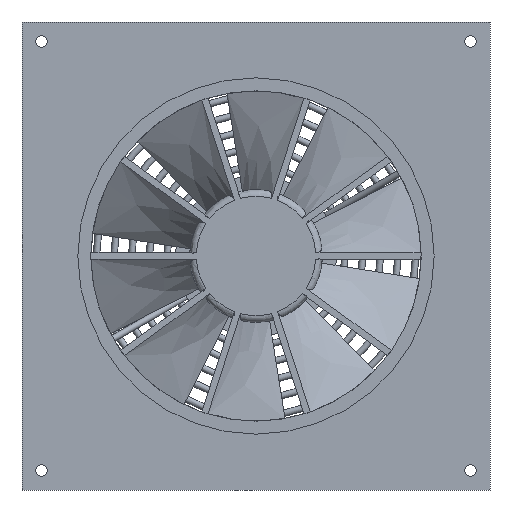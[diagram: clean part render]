
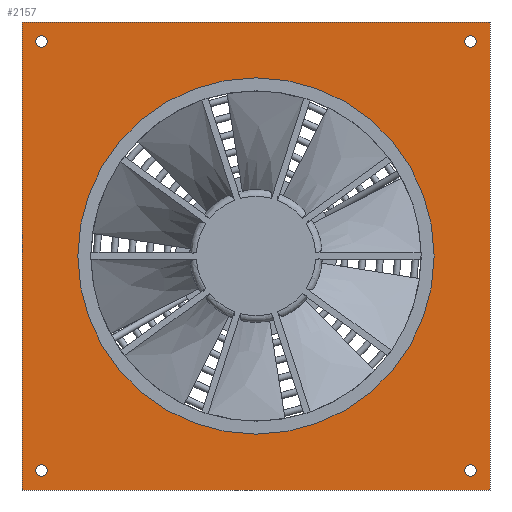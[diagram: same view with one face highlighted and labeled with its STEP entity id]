
A CAD part, front view. The second image highlights one B-rep face of the part: STEP entity #2157.
In plain terms, the highlighted planar face has unit normal (0, -1, 0).
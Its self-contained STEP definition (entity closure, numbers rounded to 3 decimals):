
#96=FACE_BOUND('',#346,.T.);
#97=FACE_BOUND('',#347,.T.);
#98=FACE_BOUND('',#348,.T.);
#99=FACE_BOUND('',#349,.T.);
#100=FACE_BOUND('',#350,.T.);
#128=PLANE('',#2356);
#228=FACE_OUTER_BOUND('',#345,.T.);
#345=EDGE_LOOP('',(#2008,#2009,#2010,#2011));
#346=EDGE_LOOP('',(#2012,#2013));
#347=EDGE_LOOP('',(#2014,#2015));
#348=EDGE_LOOP('',(#2016,#2017));
#349=EDGE_LOOP('',(#2018,#2019));
#350=EDGE_LOOP('',(#2020));
#579=CIRCLE('',#2339,4.5);
#580=CIRCLE('',#2340,4.5);
#581=CIRCLE('',#2342,4.5);
#582=CIRCLE('',#2343,4.5);
#583=CIRCLE('',#2345,4.5);
#584=CIRCLE('',#2346,4.5);
#585=CIRCLE('',#2348,4.5);
#586=CIRCLE('',#2349,4.5);
#588=CIRCLE('',#2352,137.);
#651=LINE('',#4561,#742);
#653=LINE('',#4568,#744);
#655=LINE('',#4574,#746);
#656=LINE('',#4576,#747);
#742=VECTOR('',#2676,10.);
#744=VECTOR('',#2684,10.);
#746=VECTOR('',#2690,10.);
#747=VECTOR('',#2693,10.);
#972=VERTEX_POINT('',#4558);
#973=VERTEX_POINT('',#4560);
#975=VERTEX_POINT('',#4566);
#977=VERTEX_POINT('',#4572);
#982=VERTEX_POINT('',#5372);
#983=VERTEX_POINT('',#5373);
#984=VERTEX_POINT('',#5378);
#985=VERTEX_POINT('',#5379);
#986=VERTEX_POINT('',#5384);
#987=VERTEX_POINT('',#5385);
#988=VERTEX_POINT('',#5390);
#989=VERTEX_POINT('',#5391);
#991=VERTEX_POINT('',#5398);
#1253=EDGE_CURVE('',#973,#972,#651,.T.);
#1257=EDGE_CURVE('',#972,#975,#653,.T.);
#1260=EDGE_CURVE('',#975,#977,#655,.T.);
#1261=EDGE_CURVE('',#977,#973,#656,.T.);
#1319=EDGE_CURVE('',#982,#983,#579,.T.);
#1320=EDGE_CURVE('',#983,#982,#580,.T.);
#1322=EDGE_CURVE('',#984,#985,#581,.T.);
#1323=EDGE_CURVE('',#985,#984,#582,.T.);
#1325=EDGE_CURVE('',#986,#987,#583,.T.);
#1326=EDGE_CURVE('',#987,#986,#584,.T.);
#1328=EDGE_CURVE('',#988,#989,#585,.T.);
#1329=EDGE_CURVE('',#989,#988,#586,.T.);
#1333=EDGE_CURVE('',#991,#991,#588,.T.);
#2008=ORIENTED_EDGE('',*,*,#1253,.T.);
#2009=ORIENTED_EDGE('',*,*,#1257,.T.);
#2010=ORIENTED_EDGE('',*,*,#1260,.T.);
#2011=ORIENTED_EDGE('',*,*,#1261,.T.);
#2012=ORIENTED_EDGE('',*,*,#1319,.T.);
#2013=ORIENTED_EDGE('',*,*,#1320,.T.);
#2014=ORIENTED_EDGE('',*,*,#1322,.T.);
#2015=ORIENTED_EDGE('',*,*,#1323,.T.);
#2016=ORIENTED_EDGE('',*,*,#1325,.T.);
#2017=ORIENTED_EDGE('',*,*,#1326,.T.);
#2018=ORIENTED_EDGE('',*,*,#1328,.T.);
#2019=ORIENTED_EDGE('',*,*,#1329,.T.);
#2020=ORIENTED_EDGE('',*,*,#1333,.T.);
#2157=ADVANCED_FACE('',(#228,#96,#97,#98,#99,#100),#128,.F.);
#2339=AXIS2_PLACEMENT_3D('',#5374,#2761,#2762);
#2340=AXIS2_PLACEMENT_3D('',#5375,#2763,#2764);
#2342=AXIS2_PLACEMENT_3D('',#5380,#2768,#2769);
#2343=AXIS2_PLACEMENT_3D('',#5381,#2770,#2771);
#2345=AXIS2_PLACEMENT_3D('',#5386,#2775,#2776);
#2346=AXIS2_PLACEMENT_3D('',#5387,#2777,#2778);
#2348=AXIS2_PLACEMENT_3D('',#5392,#2782,#2783);
#2349=AXIS2_PLACEMENT_3D('',#5393,#2784,#2785);
#2352=AXIS2_PLACEMENT_3D('',#5400,#2792,#2793);
#2356=AXIS2_PLACEMENT_3D('',#5404,#2800,#2801);
#2676=DIRECTION('',(1.,0.,0.));
#2684=DIRECTION('',(0.,0.,1.));
#2690=DIRECTION('',(-1.,0.,0.));
#2693=DIRECTION('',(0.,0.,-1.));
#2761=DIRECTION('center_axis',(0.,1.,0.));
#2762=DIRECTION('ref_axis',(1.,0.,0.));
#2763=DIRECTION('center_axis',(0.,1.,0.));
#2764=DIRECTION('ref_axis',(1.,0.,0.));
#2768=DIRECTION('center_axis',(0.,1.,0.));
#2769=DIRECTION('ref_axis',(1.,0.,0.));
#2770=DIRECTION('center_axis',(0.,1.,0.));
#2771=DIRECTION('ref_axis',(1.,0.,0.));
#2775=DIRECTION('center_axis',(0.,1.,0.));
#2776=DIRECTION('ref_axis',(1.,0.,0.));
#2777=DIRECTION('center_axis',(0.,1.,0.));
#2778=DIRECTION('ref_axis',(1.,0.,0.));
#2782=DIRECTION('center_axis',(0.,1.,0.));
#2783=DIRECTION('ref_axis',(1.,0.,0.));
#2784=DIRECTION('center_axis',(0.,1.,0.));
#2785=DIRECTION('ref_axis',(1.,0.,0.));
#2792=DIRECTION('center_axis',(0.,1.,0.));
#2793=DIRECTION('ref_axis',(-1.,0.,0.));
#2800=DIRECTION('center_axis',(0.,1.,0.));
#2801=DIRECTION('ref_axis',(0.,0.,1.));
#4558=CARTESIAN_POINT('',(180.,0.,-180.));
#4560=CARTESIAN_POINT('',(-180.,0.,-180.));
#4561=CARTESIAN_POINT('',(-180.,0.,-180.));
#4566=CARTESIAN_POINT('',(180.,0.,180.));
#4568=CARTESIAN_POINT('',(180.,0.,-180.));
#4572=CARTESIAN_POINT('',(-180.,0.,180.));
#4574=CARTESIAN_POINT('',(180.,0.,180.));
#4576=CARTESIAN_POINT('',(-180.,0.,180.));
#5372=CARTESIAN_POINT('',(-160.5,0.,-165.));
#5373=CARTESIAN_POINT('',(-169.5,0.,-165.));
#5374=CARTESIAN_POINT('Origin',(-165.,0.,-165.));
#5375=CARTESIAN_POINT('Origin',(-165.,0.,-165.));
#5378=CARTESIAN_POINT('',(169.5,0.,165.));
#5379=CARTESIAN_POINT('',(160.5,0.,165.));
#5380=CARTESIAN_POINT('Origin',(165.,0.,165.));
#5381=CARTESIAN_POINT('Origin',(165.,0.,165.));
#5384=CARTESIAN_POINT('',(169.5,0.,-165.));
#5385=CARTESIAN_POINT('',(160.5,0.,-165.));
#5386=CARTESIAN_POINT('Origin',(165.,0.,-165.));
#5387=CARTESIAN_POINT('Origin',(165.,0.,-165.));
#5390=CARTESIAN_POINT('',(-160.5,0.,165.));
#5391=CARTESIAN_POINT('',(-169.5,0.,165.));
#5392=CARTESIAN_POINT('Origin',(-165.,0.,165.));
#5393=CARTESIAN_POINT('Origin',(-165.,0.,165.));
#5398=CARTESIAN_POINT('',(137.,0.,0.));
#5400=CARTESIAN_POINT('Origin',(0.,0.,0.));
#5404=CARTESIAN_POINT('Origin',(0.,0.,0.));
